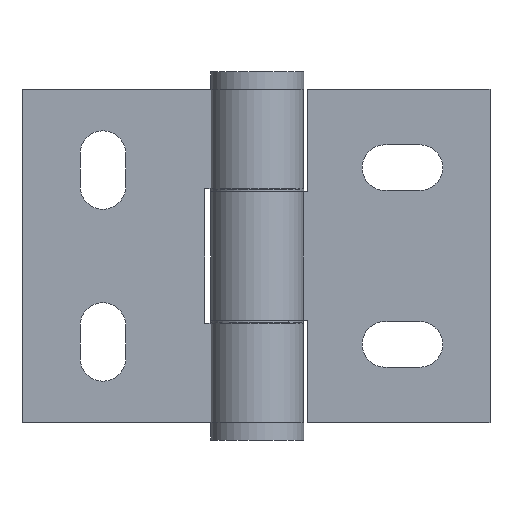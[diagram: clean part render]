
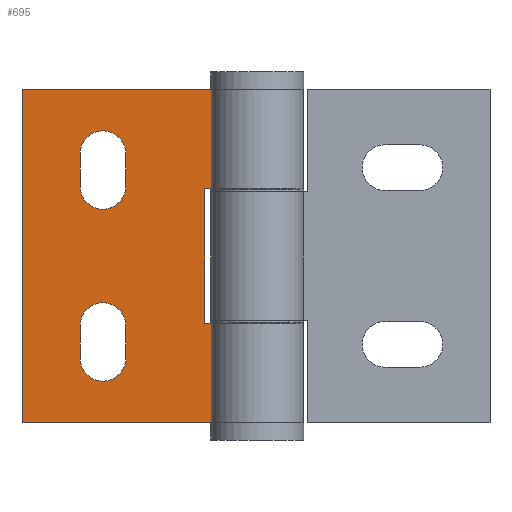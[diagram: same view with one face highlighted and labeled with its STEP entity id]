
A CAD part, front view. The second image highlights one B-rep face of the part: STEP entity #695.
In plain terms, the highlighted planar face has unit normal (0, -1, 0).
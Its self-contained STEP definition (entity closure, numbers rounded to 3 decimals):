
#3 = VECTOR ( 'NONE', #1990, 1000. ) ;
#10 = CARTESIAN_POINT ( 'NONE',  ( -24.45, -1.25, 31. ) ) ;
#24 = DIRECTION ( 'NONE',  ( 0., 0., 1. ) ) ;
#78 = CARTESIAN_POINT ( 'NONE',  ( -32.95, -1.25, 19.05 ) ) ;
#87 = CARTESIAN_POINT ( 'NONE',  ( -43.75, -1.25, 12.5 ) ) ;
#112 = ORIENTED_EDGE ( 'NONE', *, *, #1679, .T. ) ;
#114 = CARTESIAN_POINT ( 'NONE',  ( -24.45, -1.25, 12.95 ) ) ;
#145 = AXIS2_PLACEMENT_3D ( 'NONE', #1675, #1347, #1009 ) ;
#153 = LINE ( 'NONE', #10, #1459 ) ;
#174 = VECTOR ( 'NONE', #501, 1000. ) ;
#184 = VERTEX_POINT ( 'NONE', #1013 ) ;
#197 = EDGE_CURVE ( 'NONE', #1643, #557, #2139, .T. ) ;
#204 = EDGE_LOOP ( 'NONE', ( #613, #240, #2036, #1360, #112, #1957, #768, #2123 ) ) ;
#228 = CARTESIAN_POINT ( 'NONE',  ( -32.95, -1.25, 31. ) ) ;
#240 = ORIENTED_EDGE ( 'NONE', *, *, #1584, .T. ) ;
#254 = VERTEX_POINT ( 'NONE', #78 ) ;
#260 = LINE ( 'NONE', #601, #2043 ) ;
#313 = CARTESIAN_POINT ( 'NONE',  ( -8.559, -1.25, 31. ) ) ;
#314 = EDGE_CURVE ( 'NONE', #1839, #254, #521, .T. ) ;
#318 = DIRECTION ( 'NONE',  ( 0., 1., 0. ) ) ;
#338 = VERTEX_POINT ( 'NONE', #1565 ) ;
#383 = LINE ( 'NONE', #228, #1417 ) ;
#394 = LINE ( 'NONE', #737, #666 ) ;
#399 = DIRECTION ( 'NONE',  ( 1., 0., 0. ) ) ;
#403 = EDGE_CURVE ( 'NONE', #639, #1209, #2044, .T. ) ;
#479 = DIRECTION ( 'NONE',  ( 0., 0., 1. ) ) ;
#482 = CIRCLE ( 'NONE', #1714, 4.25 ) ;
#501 = DIRECTION ( 'NONE',  ( 0., 0., 1. ) ) ;
#519 = LINE ( 'NONE', #889, #1165 ) ;
#521 = CIRCLE ( 'NONE', #808, 4.25 ) ;
#529 = CARTESIAN_POINT ( 'NONE',  ( -28.7, -1.25, 19.05 ) ) ;
#530 = LINE ( 'NONE', #1047, #611 ) ;
#532 = EDGE_CURVE ( 'NONE', #2080, #1093, #530, .T. ) ;
#539 = EDGE_CURVE ( 'NONE', #2005, #184, #712, .T. ) ;
#543 = DIRECTION ( 'NONE',  ( -1., 0., 0. ) ) ;
#557 = VERTEX_POINT ( 'NONE', #2069 ) ;
#574 = VECTOR ( 'NONE', #1300, 1000. ) ;
#578 = DIRECTION ( 'NONE',  ( 0., 1., 0. ) ) ;
#580 = DIRECTION ( 'NONE',  ( -1., 0., 0. ) ) ;
#601 = CARTESIAN_POINT ( 'NONE',  ( -43.75, -1.25, 31. ) ) ;
#610 = CARTESIAN_POINT ( 'NONE',  ( -43.75, -1.25, -31. ) ) ;
#611 = VECTOR ( 'NONE', #1392, 1000. ) ;
#613 = ORIENTED_EDGE ( 'NONE', *, *, #1806, .T. ) ;
#614 = DIRECTION ( 'NONE',  ( 0., -1., 0. ) ) ;
#626 = DIRECTION ( 'NONE',  ( 0., 0., -1. ) ) ;
#629 = EDGE_CURVE ( 'NONE', #1116, #1839, #153, .T. ) ;
#632 = EDGE_CURVE ( 'NONE', #254, #1747, #1828, .T. ) ;
#639 = VERTEX_POINT ( 'NONE', #2004 ) ;
#641 = CARTESIAN_POINT ( 'NONE',  ( -32.95, -1.25, 12.95 ) ) ;
#649 = FACE_BOUND ( 'NONE', #759, .T. ) ;
#651 = LINE ( 'NONE', #1334, #3 ) ;
#666 = VECTOR ( 'NONE', #2029, 1000. ) ;
#688 = ORIENTED_EDGE ( 'NONE', *, *, #1095, .F. ) ;
#695 = ADVANCED_FACE ( 'NONE', ( #1182, #1837, #649 ), #1988, .F. ) ;
#712 = LINE ( 'NONE', #2048, #1218 ) ;
#713 = VERTEX_POINT ( 'NONE', #1690 ) ;
#727 = CARTESIAN_POINT ( 'NONE',  ( -32.95, -1.25, -19.05 ) ) ;
#737 = CARTESIAN_POINT ( 'NONE',  ( -43.75, -1.25, 31. ) ) ;
#759 = EDGE_LOOP ( 'NONE', ( #978, #1041, #688, #1908 ) ) ;
#768 = ORIENTED_EDGE ( 'NONE', *, *, #2018, .T. ) ;
#808 = AXIS2_PLACEMENT_3D ( 'NONE', #529, #1068, #1046 ) ;
#811 = CARTESIAN_POINT ( 'NONE',  ( -32.95, -1.25, 31. ) ) ;
#887 = VERTEX_POINT ( 'NONE', #1269 ) ;
#888 = AXIS2_PLACEMENT_3D ( 'NONE', #1428, #578, #1264 ) ;
#889 = CARTESIAN_POINT ( 'NONE',  ( -8.559, -1.25, 31. ) ) ;
#897 = ORIENTED_EDGE ( 'NONE', *, *, #403, .T. ) ;
#898 = DIRECTION ( 'NONE',  ( 0., 0., 1. ) ) ;
#933 = CARTESIAN_POINT ( 'NONE',  ( -28.7, -1.25, 12.95 ) ) ;
#978 = ORIENTED_EDGE ( 'NONE', *, *, #314, .F. ) ;
#990 = DIRECTION ( 'NONE',  ( 0., 0., -1. ) ) ;
#1009 = DIRECTION ( 'NONE',  ( -1., 0., 0. ) ) ;
#1013 = CARTESIAN_POINT ( 'NONE',  ( -9.75, -1.25, -12.5 ) ) ;
#1018 = EDGE_CURVE ( 'NONE', #887, #713, #519, .T. ) ;
#1041 = ORIENTED_EDGE ( 'NONE', *, *, #629, .F. ) ;
#1046 = DIRECTION ( 'NONE',  ( -1., 0., 0. ) ) ;
#1047 = CARTESIAN_POINT ( 'NONE',  ( -43.75, -1.25, -31. ) ) ;
#1068 = DIRECTION ( 'NONE',  ( 0., -1., 0. ) ) ;
#1093 = VERTEX_POINT ( 'NONE', #1094 ) ;
#1094 = CARTESIAN_POINT ( 'NONE',  ( -8.559, -1.25, -31. ) ) ;
#1095 = EDGE_CURVE ( 'NONE', #1747, #1116, #482, .T. ) ;
#1113 = LINE ( 'NONE', #87, #1696 ) ;
#1116 = VERTEX_POINT ( 'NONE', #114 ) ;
#1130 = VERTEX_POINT ( 'NONE', #1937 ) ;
#1156 = CARTESIAN_POINT ( 'NONE',  ( -8.559, -1.25, -12.5 ) ) ;
#1165 = VECTOR ( 'NONE', #898, 1000. ) ;
#1182 = FACE_OUTER_BOUND ( 'NONE', #204, .T. ) ;
#1209 = VERTEX_POINT ( 'NONE', #727 ) ;
#1218 = VECTOR ( 'NONE', #543, 1000. ) ;
#1264 = DIRECTION ( 'NONE',  ( -1., 0., 0. ) ) ;
#1269 = CARTESIAN_POINT ( 'NONE',  ( -8.559, -1.25, 12.5 ) ) ;
#1288 = AXIS2_PLACEMENT_3D ( 'NONE', #1669, #318, #1658 ) ;
#1290 = EDGE_CURVE ( 'NONE', #1209, #1643, #383, .T. ) ;
#1300 = DIRECTION ( 'NONE',  ( 0., 0., 1. ) ) ;
#1334 = CARTESIAN_POINT ( 'NONE',  ( -24.45, -1.25, 31. ) ) ;
#1344 = EDGE_LOOP ( 'NONE', ( #2071, #897, #1610, #1737 ) ) ;
#1347 = DIRECTION ( 'NONE',  ( 0., 1., 0. ) ) ;
#1350 = EDGE_CURVE ( 'NONE', #338, #713, #394, .T. ) ;
#1360 = ORIENTED_EDGE ( 'NONE', *, *, #1350, .F. ) ;
#1392 = DIRECTION ( 'NONE',  ( 1., 0., 0. ) ) ;
#1395 = EDGE_CURVE ( 'NONE', #557, #639, #651, .T. ) ;
#1417 = VECTOR ( 'NONE', #24, 1000. ) ;
#1428 = CARTESIAN_POINT ( 'NONE',  ( -28.7, -1.25, -19.05 ) ) ;
#1459 = VECTOR ( 'NONE', #479, 1000. ) ;
#1462 = LINE ( 'NONE', #2117, #574 ) ;
#1565 = CARTESIAN_POINT ( 'NONE',  ( -43.75, -1.25, 31. ) ) ;
#1584 = EDGE_CURVE ( 'NONE', #1130, #887, #1113, .T. ) ;
#1610 = ORIENTED_EDGE ( 'NONE', *, *, #1290, .T. ) ;
#1643 = VERTEX_POINT ( 'NONE', #1760 ) ;
#1652 = CARTESIAN_POINT ( 'NONE',  ( -24.45, -1.25, 19.05 ) ) ;
#1658 = DIRECTION ( 'NONE',  ( -1., 0., 0. ) ) ;
#1669 = CARTESIAN_POINT ( 'NONE',  ( -43.75, -1.25, 31. ) ) ;
#1675 = CARTESIAN_POINT ( 'NONE',  ( -28.7, -1.25, -12.95 ) ) ;
#1679 = EDGE_CURVE ( 'NONE', #338, #2080, #260, .T. ) ;
#1690 = CARTESIAN_POINT ( 'NONE',  ( -8.559, -1.25, 31. ) ) ;
#1696 = VECTOR ( 'NONE', #399, 1000. ) ;
#1714 = AXIS2_PLACEMENT_3D ( 'NONE', #933, #614, #580 ) ;
#1737 = ORIENTED_EDGE ( 'NONE', *, *, #197, .T. ) ;
#1747 = VERTEX_POINT ( 'NONE', #641 ) ;
#1760 = CARTESIAN_POINT ( 'NONE',  ( -32.95, -1.25, -12.95 ) ) ;
#1806 = EDGE_CURVE ( 'NONE', #184, #1130, #1462, .T. ) ;
#1828 = LINE ( 'NONE', #811, #1838 ) ;
#1833 = LINE ( 'NONE', #313, #174 ) ;
#1837 = FACE_BOUND ( 'NONE', #1344, .T. ) ;
#1838 = VECTOR ( 'NONE', #990, 1000. ) ;
#1839 = VERTEX_POINT ( 'NONE', #1652 ) ;
#1908 = ORIENTED_EDGE ( 'NONE', *, *, #632, .F. ) ;
#1937 = CARTESIAN_POINT ( 'NONE',  ( -9.75, -1.25, 12.5 ) ) ;
#1957 = ORIENTED_EDGE ( 'NONE', *, *, #532, .T. ) ;
#1988 = PLANE ( 'NONE',  #1288 ) ;
#1990 = DIRECTION ( 'NONE',  ( 0., 0., -1. ) ) ;
#2004 = CARTESIAN_POINT ( 'NONE',  ( -24.45, -1.25, -19.05 ) ) ;
#2005 = VERTEX_POINT ( 'NONE', #1156 ) ;
#2018 = EDGE_CURVE ( 'NONE', #1093, #2005, #1833, .T. ) ;
#2029 = DIRECTION ( 'NONE',  ( 1., 0., 0. ) ) ;
#2036 = ORIENTED_EDGE ( 'NONE', *, *, #1018, .T. ) ;
#2043 = VECTOR ( 'NONE', #626, 1000. ) ;
#2044 = CIRCLE ( 'NONE', #888, 4.25 ) ;
#2048 = CARTESIAN_POINT ( 'NONE',  ( -43.75, -1.25, -12.5 ) ) ;
#2069 = CARTESIAN_POINT ( 'NONE',  ( -24.45, -1.25, -12.95 ) ) ;
#2071 = ORIENTED_EDGE ( 'NONE', *, *, #1395, .T. ) ;
#2080 = VERTEX_POINT ( 'NONE', #610 ) ;
#2117 = CARTESIAN_POINT ( 'NONE',  ( -9.75, -1.25, 31. ) ) ;
#2123 = ORIENTED_EDGE ( 'NONE', *, *, #539, .T. ) ;
#2139 = CIRCLE ( 'NONE', #145, 4.25 ) ;
